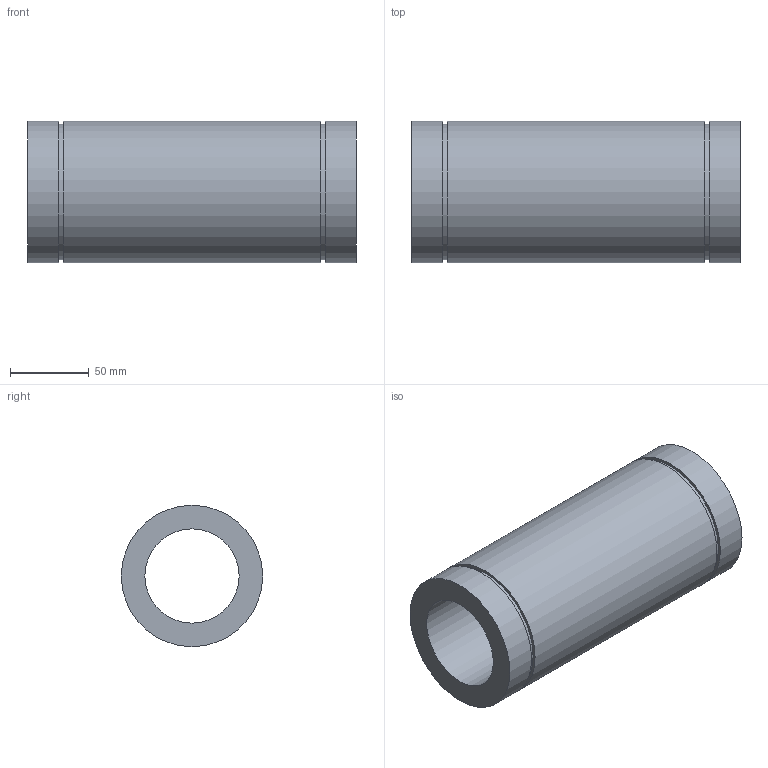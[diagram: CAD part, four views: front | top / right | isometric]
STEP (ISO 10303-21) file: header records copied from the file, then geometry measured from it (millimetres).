
FILE_DESCRIPTION(/* description */ ('Unknown'),/* implementation_level */ '2;1');
FILE_NAME(/* name */ 'LM60LUU',/* time_stamp */ '2025-02-03T15:07:16+08:00',/* author */ ('Unknown'),/* organization */ ('Unknown'),/* preprocessor_version */ 'ST-DEVELOPER v18.102',/* originating_system */ 'Solid Edge',/* authorisation */ 'Unknown');
FILE_SCHEMA (('AUTOMOTIVE_DESIGN {1 0 10303 214 3 1 1}'));
Length unit declared in the file: millimetre
Products named in the file (1): LM60LUU
Bounding box: 209 x 90 x 90 mm (x, y, z)
Volume: 735610.3 mm3; surface area: 107429 mm2
Topology: 1 solids, 1 shells, 12 faces, 20 edges, 14 vertices
Faces by surface type: cylinder 6, plane 6
Full cylindrical faces by diameter (mm): 60 x1, 86.5 x2, 90 x3
Entity records: 278 total; most frequent: DIRECTION 50, CARTESIAN_POINT 37, AXIS2_PLACEMENT_3D 25, ORIENTED_EDGE 24, EDGE_LOOP 24, FACE_BOUND 24, EDGE_CURVE 12, VERTEX_POINT 12
